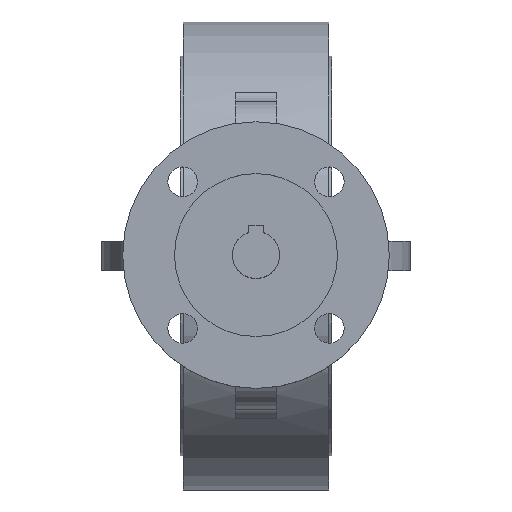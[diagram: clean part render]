
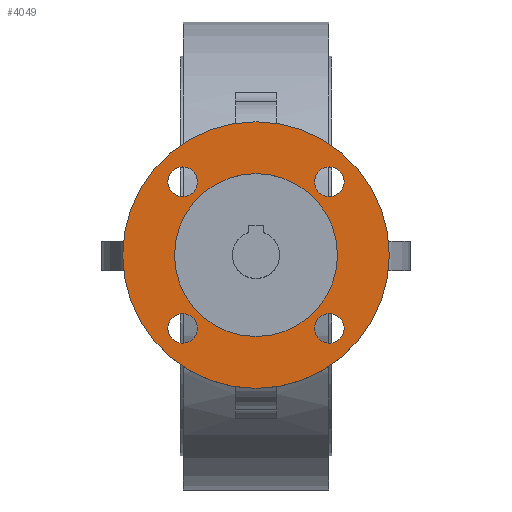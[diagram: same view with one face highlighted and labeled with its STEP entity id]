
A CAD part, top view. The second image highlights one B-rep face of the part: STEP entity #4049.
In plain terms, the highlighted planar face has unit normal (0, 0, 1).
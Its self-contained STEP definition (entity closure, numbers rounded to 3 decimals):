
#4049=ADVANCED_FACE('',(#8657,#8659,#8661,#8663,#8665,#8667),#8669,.T.);
#8657=FACE_BOUND('',#8658,.T.);
#8658=EDGE_LOOP('',(#12400));
#8659=FACE_BOUND('',#8660,.T.);
#8660=EDGE_LOOP('',(#12401));
#8661=FACE_BOUND('',#8662,.T.);
#8662=EDGE_LOOP('',(#12402));
#8663=FACE_BOUND('',#8664,.T.);
#8664=EDGE_LOOP('',(#12403));
#8665=FACE_BOUND('',#8666,.T.);
#8666=EDGE_LOOP('',(#12404));
#8667=FACE_BOUND('',#8668,.T.);
#8668=EDGE_LOOP('',(#12405));
#8669=PLANE('',#8670);
#8670=AXIS2_PLACEMENT_3D('',#8671,#8672,#8673);
#8671=CARTESIAN_POINT('',(0.,0.,180.));
#8672=DIRECTION('',(0.,0.,1.));
#8673=DIRECTION('',(0.,1.,0.));
#12400=ORIENTED_EDGE('',*,*,#14380,.F.);
#12401=ORIENTED_EDGE('',*,*,#14381,.T.);
#12402=ORIENTED_EDGE('',*,*,#14382,.T.);
#12403=ORIENTED_EDGE('',*,*,#14383,.T.);
#12404=ORIENTED_EDGE('',*,*,#14523,.T.);
#12405=ORIENTED_EDGE('',*,*,#14384,.T.);
#14380=EDGE_CURVE('',#16912,#16912,#16913,.T.);
#14381=EDGE_CURVE('',#16914,#16914,#16915,.F.);
#14382=EDGE_CURVE('',#16916,#16916,#16917,.F.);
#14383=EDGE_CURVE('',#16918,#16918,#16919,.F.);
#14384=EDGE_CURVE('',#16920,#16920,#16921,.F.);
#14523=EDGE_CURVE('',#17198,#17198,#17199,.T.);
#16912=VERTEX_POINT('',#23374);
#16913=CIRCLE('',#23375,45.);
#16914=VERTEX_POINT('',#23379);
#16915=CIRCLE('',#23380,5.);
#16916=VERTEX_POINT('',#23384);
#16917=CIRCLE('',#23385,5.);
#16918=VERTEX_POINT('',#23389);
#16919=CIRCLE('',#23390,5.);
#16920=VERTEX_POINT('',#23394);
#16921=CIRCLE('',#23395,5.);
#17198=VERTEX_POINT('',#24051);
#17199=CIRCLE('',#24052,27.5);
#23374=CARTESIAN_POINT('',(0.,45.,180.));
#23375=AXIS2_PLACEMENT_3D('',#23376,#23377,#23378);
#23376=CARTESIAN_POINT('',(0.,0.,180.));
#23377=DIRECTION('',(0.,0.,-1.));
#23378=DIRECTION('',(0.,1.,0.));
#23379=CARTESIAN_POINT('',(-19.749,-24.749,180.));
#23380=AXIS2_PLACEMENT_3D('',#23381,#23382,#23383);
#23381=CARTESIAN_POINT('',(-24.749,-24.749,180.));
#23382=DIRECTION('',(0.,0.,1.));
#23383=DIRECTION('',(1.,0.,0.));
#23384=CARTESIAN_POINT('',(-24.749,19.749,180.));
#23385=AXIS2_PLACEMENT_3D('',#23386,#23387,#23388);
#23386=CARTESIAN_POINT('',(-24.749,24.749,180.));
#23387=DIRECTION('',(0.,0.,1.));
#23388=DIRECTION('',(0.,-1.,0.));
#23389=CARTESIAN_POINT('',(19.749,24.749,180.));
#23390=AXIS2_PLACEMENT_3D('',#23391,#23392,#23393);
#23391=CARTESIAN_POINT('',(24.749,24.749,180.));
#23392=DIRECTION('',(0.,0.,1.));
#23393=DIRECTION('',(-1.,0.,0.));
#23394=CARTESIAN_POINT('',(24.749,-19.749,180.));
#23395=AXIS2_PLACEMENT_3D('',#23396,#23397,#23398);
#23396=CARTESIAN_POINT('',(24.749,-24.749,180.));
#23397=DIRECTION('',(0.,0.,1.));
#23398=DIRECTION('',(0.,1.,0.));
#24051=CARTESIAN_POINT('',(0.,27.5,180.));
#24052=AXIS2_PLACEMENT_3D('',#24053,#24054,#24055);
#24053=CARTESIAN_POINT('',(0.,0.,180.));
#24054=DIRECTION('',(0.,0.,-1.));
#24055=DIRECTION('',(0.,1.,0.));
